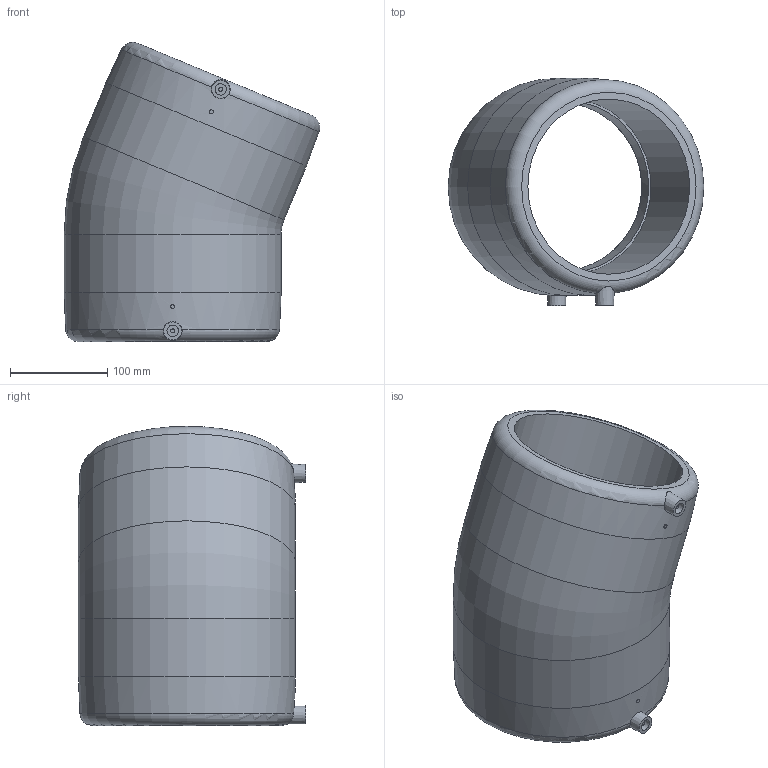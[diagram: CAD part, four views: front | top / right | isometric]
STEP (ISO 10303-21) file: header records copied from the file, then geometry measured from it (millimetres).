
FILE_DESCRIPTION(/* description */ ('Unknown'),/* implementation_level */ '2;1');
FILE_NAME(/* name */ 'GE2250P180C',/* time_stamp */ '2021-01-25T16:21:44+01:00',/* author */ ('Unknown'),/* organization */ ('Unknown'),/* preprocessor_version */ 'ST-DEVELOPER v16.7',/* originating_system */ 'Solid Edge',/* authorisation */ 'Unknown');
FILE_SCHEMA (('AUTOMOTIVE_DESIGN {1 0 10303 214 3 1 1}'));
Length unit declared in the file: millimetre
Products named in the file (1): GE2250P180C
Bounding box: 262.73 x 233.5 x 307.43 mm (x, y, z)
Volume: 3793279.8 mm3; surface area: 374904 mm2
Topology: 1 solids, 1 shells, 32 faces, 69 edges, 47 vertices
Faces by surface type: plane 12, cylinder 12, cone 4, torus 4
Full cylindrical faces by diameter (mm): 4 x4, 11.7 x2, 175 x2, 180 x2, 223 x2
Entity records: 788 total; most frequent: CARTESIAN_POINT 190, DIRECTION 124, ORIENTED_EDGE 78, AXIS2_PLACEMENT_3D 62, EDGE_LOOP 61, FACE_BOUND 61, EDGE_CURVE 39, VERTEX_POINT 36
